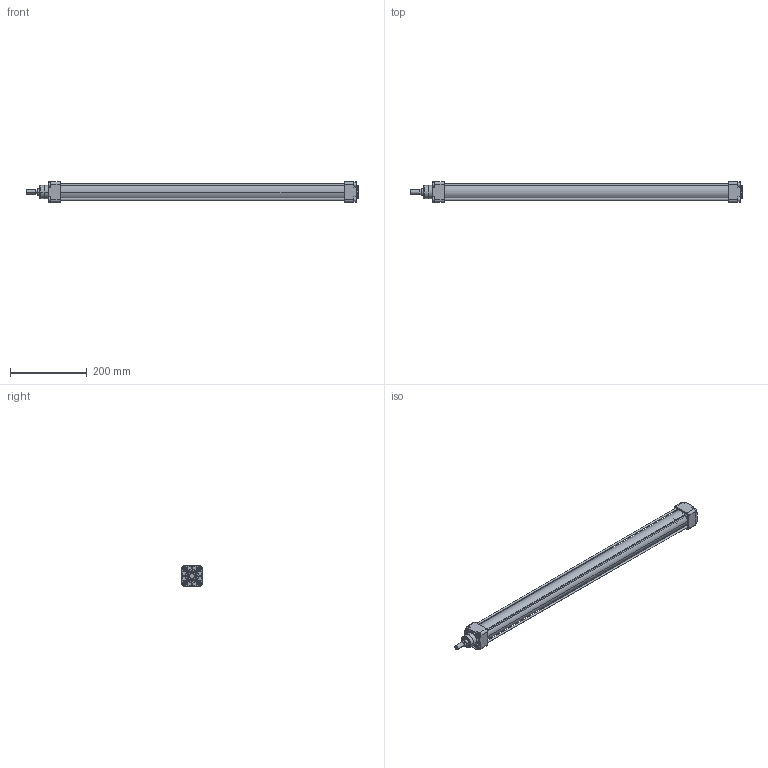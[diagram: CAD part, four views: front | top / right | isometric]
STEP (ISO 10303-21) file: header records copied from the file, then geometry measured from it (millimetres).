
FILE_DESCRIPTION(('CATIA V5 STEP Exchange'),'2;1');
FILE_NAME('C:\Users\sohrabi\Desktop\PNC 40-16-700-00.stp','2019-10-21T08:43:37+00:00',('none'),('none'),'CATIA Version 5-6 Release 2016','CATIA V5 STEP AP203','none');
FILE_SCHEMA(('CONFIG_CONTROL_DESIGN'));
Length unit declared in the file: millimetre
Products named in the file (1): PNC 40-16-700-00
Assembly tree (2 placements, depth 2):
  PNC 40-16-700-00
    #57
    #14828
Bounding box: 866.5 x 53 x 53 mm (x, y, z)
Volume: 629088 mm3; surface area: 337515.2 mm2
Topology: 2 solids, 2 shells, 562 faces, 1417 edges, 920 vertices
Faces by surface type: plane 352, cylinder 158, torus 26, cone 18, extrusion 8
Entity records: 15257 total; most frequent: CARTESIAN_POINT 2959, ORIENTED_EDGE 2834, DIRECTION 1897, EDGE_CURVE 1417, VERTEX_POINT 920, VECTOR 877, LINE 869, AXIS2_PLACEMENT_3D 756
